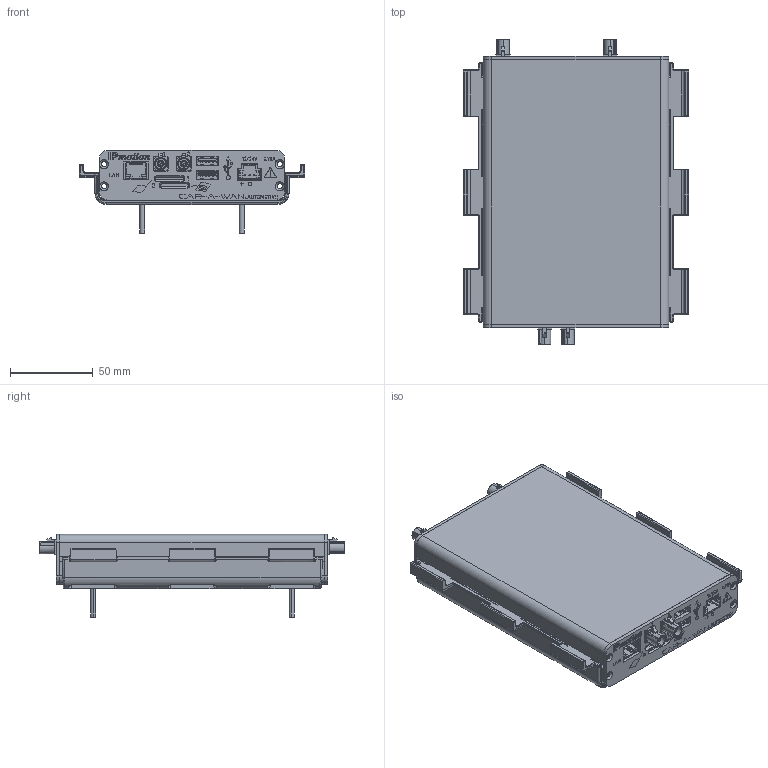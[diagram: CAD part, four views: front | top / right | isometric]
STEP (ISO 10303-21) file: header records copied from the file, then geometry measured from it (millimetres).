
FILE_DESCRIPTION (( 'STEP AP203' ), '1' );
FILE_NAME ('CANZusammenbau Halter + Gehäuse.STEP', '2012-04-16T20:00:33', ( 'Marc neues Büro' ), ( '' ), 'SwSTEP 2.0', 'SolidWorks 2012', '' );
FILE_SCHEMA (( 'CONFIG_CONTROL_DESIGN' ));
Products named in the file (15): CANZusammenbau Halter + Gehäuse; CANStromstecker 12v; CANUser Library-RJ45_J3011G21DNL; CANSamtec-USB-A-S-F-B-TH; CAN3403.SMBA.1C10.00Z_step; CAN3403_step_C; CAN3403.SMBA.1D10.00Z_step; CAN3403_step_D; CAN3403.SMBA.1I10.00Z_step; CAN3403.SMBA.1010.00¦.14; CAN3401.SMBA.1010.04¦.44; CAN3403_step_I; CANN_7991_8.8_M 3 x 20; CAN22_2_129_2_geh_usehalterung_neu; CANGehäuse
Assembly tree (24 placements, depth 3):
  CANZusammenbau Halter + Gehäuse
    CANGehäuse
    CAN22_2_129_2_geh_usehalterung_neu
    CANN_7991_8.8_M 3 x 20  x4
    CAN3403.SMBA.1I10.00Z_step
      CAN3403_step_I
      CAN3401.SMBA.1010.04¦.44
      CAN3403.SMBA.1010.00¦.14
    CAN3403.SMBA.1D10.00Z_step  x2
      CAN3401.SMBA.1010.04¦.44
      CAN3403.SMBA.1010.00¦.14
      CAN3403_step_D
    CAN3403.SMBA.1C10.00Z_step
      CAN3401.SMBA.1010.04¦.44
      CAN3403.SMBA.1010.00¦.14
      CAN3403_step_C
    CANSamtec-USB-A-S-F-B-TH  x2
    CANUser Library-RJ45_J3011G21DNL
    CANStromstecker 12v  x2
Bounding box: 136.34 x 184.6 x 50.27 mm (x, y, z)
Volume: 73884.6 mm3; surface area: 173687.5 mm2
Topology: 23 solids, 145 shells, 4376 faces, 12018 edges, 7890 vertices
Faces by surface type: plane 3088, cylinder 778, bspline 304, cone 158, torus 24, sphere 24
Entity records: 131030 total; most frequent: CARTESIAN_POINT 37735, ORIENTED_EDGE 18680, DIRECTION 17472, EDGE_CURVE 10247, VECTOR 8378, LINE 8378, VERTEX_POINT 6803, AXIS2_PLACEMENT_3D 4547
